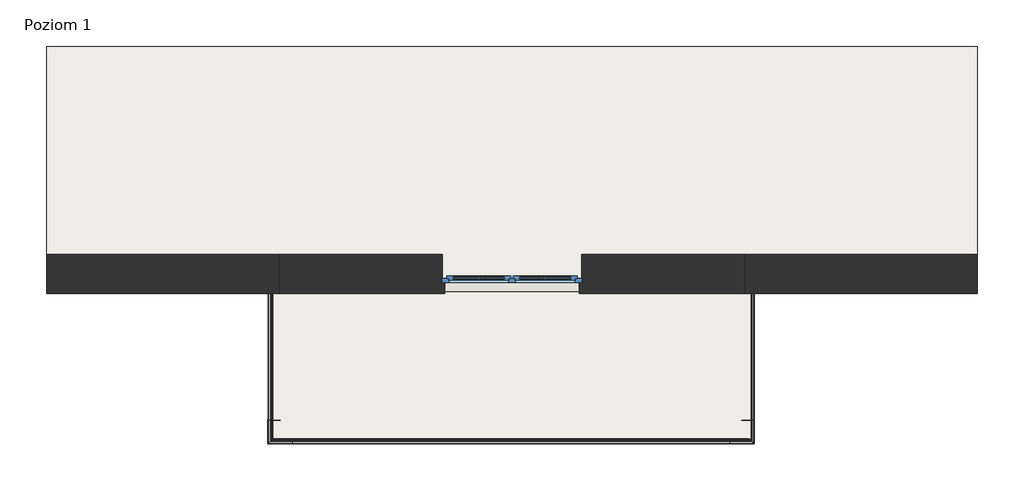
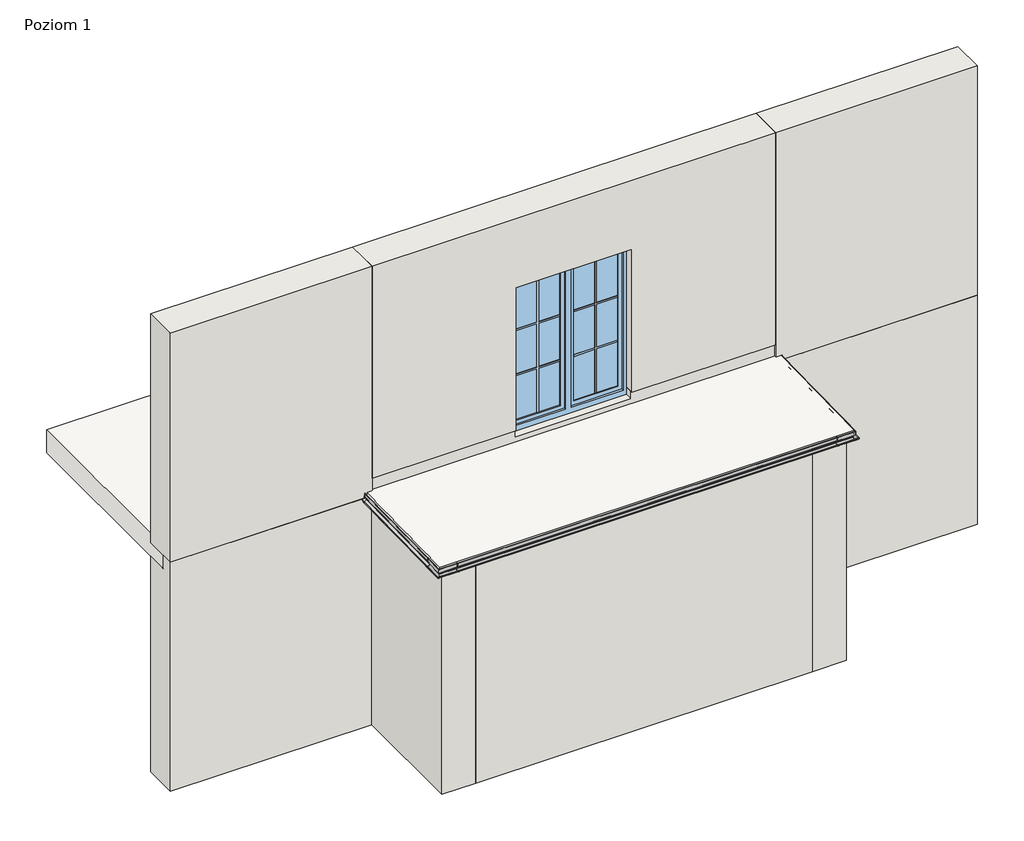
# One storey, part 1 of 4: 12 proxies, 10 walls, 2 slabs, 1 window.
"""IFC4 building model written with IfcOpenShell, lengths in millimetres."""

from ifc_helpers import new_model, si_unit, frame, origin, place, context, project, spatial, polyline, outline, extrude, faceted_brep, transform, mapped, element, save
from components import generic_models_68332640, generic_models_4a95ab7a, rynna_alu_r50_rynna_alu_r50_76c79ff7, rynna_alu_r50_rynna_alu_r50_7d1cd2c4, rynna_alu_r50_rynna_alu_r50_d8eb1f83, w35_plus_573f0110, w35_plus_b0e108dd, w35_plus_8190e263, window_150x200_12b14935

model = new_model("IFC4")

# Units and contexts
model_context = context("Model", 3, world=origin())
ifc_project = project(units=[si_unit("LENGTHUNIT", "METRE", prefix="MILLI")], contexts=[model_context])

# Site, building, storey
site = spatial("IfcSite", under=ifc_project)
building = spatial("IfcBuilding", under=site)
storey = spatial("IfcBuildingStorey", under=building, Name="Poziom 1", Elevation=0.0)

# Proxies
placement = place(None, origin())
generic_models_shape = generic_models_68332640(model_context)
element("IfcBuildingElementProxy", 1, Name="Odbojniki - OPW35 PLUS : Odbojniki - OPW35 PLUS", ObjectType="Odbojniki - OPW35 PLUS : Odbojniki - OPW35 PLUS", at=placement, inside=storey, context=model_context, shape_type="MappedRepresentation", body=[
    mapped(generic_models_shape, transform((-100610.4028716, 45257.8560503, -99.2971298), x_axis=(0.0, -0.9998161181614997, -0.019176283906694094), y_axis=(1.0000000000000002, 0.0, 0.0), z_axis=(0.0, -0.01917628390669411, 0.9998161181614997))),
])
element("IfcBuildingElementProxy", 2, Name="Odbojniki - OPW35 PLUS : Odbojniki - OPW35 PLUS", ObjectType="Odbojniki - OPW35 PLUS : Odbojniki - OPW35 PLUS", at=placement, inside=storey, context=model_context, shape_type="MappedRepresentation", body=[
    mapped(generic_models_shape, transform((-100813.2028716, 43700.7861698, -129.1614354), x_axis=(-1.0, 0.0, 0.0), y_axis=(0.0, -0.9998161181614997, -0.01917628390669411), z_axis=(0.0, -0.01917628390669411, 0.9998161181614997))),
])
element("IfcBuildingElementProxy", 3, Name="Odbojniki - OPW35 PLUS : Odbojniki - OPW35 PLUS", ObjectType="Odbojniki - OPW35 PLUS : Odbojniki - OPW35 PLUS", at=placement, inside=storey, context=model_context, shape_type="MappedRepresentation", body=[
    mapped(generic_models_shape, transform((-105717.2365026, 43904.4187701, -125.2558007), x_axis=(0.0, 0.9998161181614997, 0.019176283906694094), y_axis=(-1.0000000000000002, 0.0, 0.0), z_axis=(0.0, -0.01917628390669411, 0.9998161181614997))),
])
generic_models_2_shape = generic_models_4a95ab7a(model_context)
element("IfcBuildingElementProxy", 4, Name="Odbojniki - OPW35 PLUS : Odbojniki - OPW35 PLUS", ObjectType="Odbojniki - OPW35 PLUS : Odbojniki - OPW35 PLUS", at=placement, inside=storey, context=model_context, shape_type="MappedRepresentation", body=[
    mapped(generic_models_2_shape, transform((-105717.2365026, 45258.5697206, -99.2834418), x_axis=(0.0, -0.9998161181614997, -0.019176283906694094), y_axis=(1.0000000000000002, 0.0, 0.0), z_axis=(0.0, -0.01917628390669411, 0.9998161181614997))),
])
element("IfcBuildingElementProxy", 5, Name="Odbojniki - OPW35 PLUS : Odbojniki - OPW35 PLUS", ObjectType="Odbojniki - OPW35 PLUS : Odbojniki - OPW35 PLUS", at=placement, inside=storey, context=model_context, shape_type="MappedRepresentation", body=[
    mapped(generic_models_2_shape, transform((-105514.4365026, 43700.7861698, -129.1614354), x_axis=(1.0, 0.0, 0.0), y_axis=(0.0, 0.9998161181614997, 0.01917628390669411), z_axis=(0.0, -0.01917628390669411, 0.9998161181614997))),
])
element("IfcBuildingElementProxy", 6, Name="Odbojniki - OPW35 PLUS : Odbojniki - OPW35 PLUS", ObjectType="Odbojniki - OPW35 PLUS : Odbojniki - OPW35 PLUS", at=placement, inside=storey, context=model_context, shape_type="MappedRepresentation", body=[
    mapped(generic_models_2_shape, transform((-100610.4028716, 43903.7050998, -125.2694888), x_axis=(0.0, 0.9998161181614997, 0.019176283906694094), y_axis=(-1.0000000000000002, 0.0, 0.0), z_axis=(0.0, -0.01917628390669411, 0.9998161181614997))),
])
rynna_alu_r50_rynna_alu_r50_shape = rynna_alu_r50_rynna_alu_r50_76c79ff7(model_context)
element("IfcBuildingElementProxy", 7, Name="Rynna ALU R50 : Rynna ALU R50", ObjectType="Rynna ALU R50 : Rynna ALU R50", at=placement, inside=storey, context=model_context, shape_type="MappedRepresentation", body=[
    mapped(rynna_alu_r50_rynna_alu_r50_shape, transform((-103163.8196871, 43695.1925535, -131.7167123), x_axis=(1.0, 0.0, 0.0), y_axis=(0.0, 0.9998161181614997, 0.01917628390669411), z_axis=(0.0, -0.01917628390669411, 0.9998161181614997))),
])
rynna_alu_r50_rynna_alu_r50_2_shape = rynna_alu_r50_rynna_alu_r50_7d1cd2c4(model_context)
element("IfcBuildingElementProxy", 8, Name="Rynna ALU R50 : Rynna ALU R50", ObjectType="Rynna ALU R50 : Rynna ALU R50", at=placement, inside=storey, context=model_context, shape_type="MappedRepresentation", body=[
    mapped(rynna_alu_r50_rynna_alu_r50_2_shape, transform((-105722.878091, 44581.5411801, -114.7167134), x_axis=(0.0, 0.9998161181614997, 0.019176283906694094), y_axis=(-1.0000000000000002, 0.0, 0.0), z_axis=(0.0, -0.01917628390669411, 0.9998161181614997))),
])
rynna_alu_r50_rynna_alu_r50_3_shape = rynna_alu_r50_rynna_alu_r50_d8eb1f83(model_context)
element("IfcBuildingElementProxy", 9, Name="Rynna ALU R50 : Rynna ALU R50", ObjectType="Rynna ALU R50 : Rynna ALU R50", at=placement, inside=storey, context=model_context, shape_type="MappedRepresentation", body=[
    mapped(rynna_alu_r50_rynna_alu_r50_3_shape, transform((-100604.7612832, 44580.8275098, -114.7304015), x_axis=(0.0, 0.9998161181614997, 0.019176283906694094), y_axis=(-1.0000000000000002, 0.0, 0.0), z_axis=(0.0, -0.01917628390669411, 0.9998161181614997))),
])
w35_plus_shape = w35_plus_573f0110(model_context)
element("IfcBuildingElementProxy", 10, Name="W35 PLUS Profil okapowy prosty z rynną : W35 PLUS", ObjectType="W35 PLUS Profil okapowy prosty z rynną : W35 PLUS", at=placement, inside=storey, context=model_context, shape_type="MappedRepresentation", body=[
    mapped(w35_plus_shape, transform((-105717.2365026, 43700.2483344, -92.9716012), x_axis=(1.0, 0.0, 0.0), y_axis=(0.0, 0.9998161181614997, 0.01917628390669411), z_axis=(0.0, -0.01917628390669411, 0.9998161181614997))),
])
w35_plus_2_shape = w35_plus_b0e108dd(model_context)
element("IfcBuildingElementProxy", 11, Name="W35 PLUS Profil okapowy prosty z rynną : W35 PLUS", ObjectType="W35 PLUS Profil okapowy prosty z rynną : W35 PLUS", at=placement, inside=storey, context=model_context, shape_type="MappedRepresentation", body=[
    mapped(w35_plus_2_shape, transform((-100610.5591216, 43900.211558, -89.1363444), x_axis=(0.0, 0.9998161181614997, 0.019176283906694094), y_axis=(-1.0000000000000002, 0.0, 0.0), z_axis=(0.0, -0.01917628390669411, 0.9998161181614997))),
])
w35_plus_3_shape = w35_plus_8190e263(model_context)
element("IfcBuildingElementProxy", 12, Name="W35 PLUS Profil okapowy prosty z rynną : W35 PLUS", ObjectType="W35 PLUS Profil okapowy prosty z rynną : W35 PLUS", at=placement, inside=storey, context=model_context, shape_type="MappedRepresentation", body=[
    mapped(w35_plus_3_shape, transform((-105717.0802526, 43900.9252283, -89.1226564), x_axis=(0.0, 0.9998161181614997, 0.019176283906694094), y_axis=(-1.0000000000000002, 0.0, 0.0), z_axis=(0.0, -0.01917628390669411, 0.9998161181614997))),
])

# Slabs
element("IfcSlab", 13, ObjectType="Taras - wykończenie - posadzka z płytek grubowarstwowych - podkładka P1 - hydroizolacja", at=placement, inside=storey, context=model_context, shape_type="SweptSolid", body=[
    extrude(outline(polyline([(43700.2483344, -145.9716012), (43700.2483344, -92.9716012), (45285.2483344, -62.5716012), (45285.2483344, -115.5716012), (43700.2483344, -145.9716012)])), frame((-105717.2365026, 0.0, 0.0), z_axis=(1.0, 0.0, 0.0), x_axis=(0.0, 1.0, 0.0)), (0.0, 0.0, 1.0), 5126.0),
])
element("IfcSlab", 14, ObjectType="Strop", at=placement, inside=storey, context=model_context, shape_type="Brep", body=[
    faceted_brep([(-98154.2365026, 45418.2483344, -300.0), (-100649.2365026, 45418.2483344, -300.0), (-101069.2365026, 45418.2483344, -300.0), (-105239.2365026, 45418.2483344, -300.0), (-108154.2365026, 45418.2483344, -300.0), (-108154.2365026, 45683.2483344, -300.0), (-108154.2365026, 47918.2483344, -300.0), (-98154.2365026, 47918.2483344, -300.0), (-98154.2365026, 45683.2483344, -300.0), (-98154.2365026, 45418.2483344, 0.0), (-98154.2365026, 47918.2483344, 0.0), (-108154.2365026, 47918.2483344, 0.0), (-108154.2365026, 45418.2483344, 0.0), (-105654.2365026, 45418.2483344, 0.0), (-103904.2365026, 45418.2483344, 0.0), (-102404.2365026, 45418.2483344, 0.0), (-100654.2365026, 45418.2483344, 0.0), (-98154.2365026, 45418.2483344, -125.0), (-108154.2365026, 45418.2483344, -125.0)], [[[0, 1, 2, 3, 4, 5, 6, 7, 8]], [[9, 10, 11, 12, 13, 14, 15, 16]], [[4, 3, 2, 1, 0, 17, 9, 16, 15, 14, 13, 12, 18]], [[6, 5, 4, 18, 12, 11]], [[7, 6, 11, 10]], [[0, 8, 7, 10, 9, 17]]]),
])

# Walls
element("IfcWall", 15, ObjectType="Porotherm P+W 25 + o15 + t", at=placement, inside=storey, context=model_context, shape_type="Brep", body=[
    faceted_brep([(-108154.2365026, 45263.2483344, -3125.0), (-105659.2365026, 45263.2483344, -3125.0), (-105239.2365026, 45263.2483344, -3125.0), (-105239.2365026, 45263.2483344, -147.509132), (-105449.2365026, 45263.2483344, -147.509132), (-105449.2365026, 45263.2483344, -125.0), (-105654.2365026, 45263.2483344, -125.0), (-108154.2365026, 45263.2483344, -125.0), (-105239.2365026, 45683.2483344, -3125.0), (-108154.2365026, 45683.2483344, -3125.0), (-108154.2365026, 45683.2483344, -300.0), (-105239.2365026, 45683.2483344, -300.0), (-105239.2365026, 45403.2483344, -3125.0), (-105449.2365026, 45403.2483344, -125.0), (-105449.2365026, 45418.2483344, -125.0), (-108154.2365026, 45418.2483344, -125.0), (-108154.2365026, 45418.2483344, -300.0), (-105239.2365026, 45418.2483344, -300.0), (-105449.2365026, 45418.2483344, -147.509132), (-105239.2365026, 45418.2483344, -147.509132), (-105449.2365026, 45403.2483344, -147.509132), (-105239.2365026, 45403.2483344, -147.509132)], [[[0, 1, 2, 3, 4, 5, 6, 7]], [[8, 9, 10, 11]], [[2, 1, 0, 9, 8, 12]], [[7, 6, 5, 13, 14, 15]], [[0, 7, 15, 16, 10, 9]], [[16, 17, 11, 10]], [[17, 16, 15, 14, 18, 19]], [[5, 4, 20, 18, 14, 13]], [[4, 3, 21, 19, 18, 20]], [[3, 2, 12, 8, 11, 17, 19, 21]]]),
])
element("IfcWall", 16, ObjectType="Porotherm P+W 25 + o15 + t", at=placement, inside=storey, context=model_context, shape_type="Brep", body=[
    faceted_brep([(-105659.2365026, 45263.2483344, -3125.0), (-105659.2365026, 43758.2483344, -3125.0), (-105659.2365026, 43758.2483344, -147.509132), (-105659.2365026, 45263.2483344, -147.509132), (-105239.2365026, 45263.2483344, -3125.0), (-105239.2365026, 45263.2483344, -147.509132), (-105239.2365026, 44178.2483344, -147.509132), (-105239.2365026, 43758.2483344, -147.509132), (-105239.2365026, 43758.2483344, -3125.0), (-105239.2365026, 44178.2483344, -3125.0), (-105449.2365026, 45263.2483344, -147.509132)], [[[0, 1, 2, 3]], [[4, 5, 6, 7, 8, 9]], [[1, 0, 4, 9, 8]], [[3, 2, 7, 6, 5, 10]], [[2, 1, 8, 7]], [[0, 3, 10, 5, 4]]]),
])
element("IfcWall", 17, ObjectType="Porotherm P+W 25 + o15 + t", at=placement, inside=storey, context=model_context, shape_type="SweptSolid", body=[
    extrude(outline(polyline([(-101069.2365026, 43758.2483344), (-105239.2365026, 43758.2483344), (-105239.2365026, 44178.2483344), (-101069.2365026, 44178.2483344), (-101069.2365026, 43758.2483344)])), frame((0.0, 0.0, -3125.0), z_axis=(0.0, 0.0, 1.0), x_axis=(1.0, 0.0, 0.0)), (0.0, 0.0, 1.0), 2977.490868),
])
element("IfcWall", 18, ObjectType="Porotherm P+W 25 + o15 + t", at=placement, inside=storey, context=model_context, shape_type="Brep", body=[
    faceted_brep([(-100649.2365026, 43758.2483344, -3125.0), (-100649.2365026, 45263.2483344, -3125.0), (-100649.2365026, 45683.2483344, -3125.0), (-100649.2365026, 45683.2483344, -300.0), (-100649.2365026, 45683.2483344, -147.509132), (-100649.2365026, 45418.2483344, -147.509132), (-100649.2365026, 45263.2483344, -147.509132), (-100649.2365026, 43758.2483344, -147.509132), (-101069.2365026, 43758.2483344, -3125.0), (-101069.2365026, 43758.2483344, -147.509132), (-101069.2365026, 44178.2483344, -147.509132), (-101069.2365026, 45403.2483344, -147.509132), (-101069.2365026, 45418.2483344, -147.509132), (-101069.2365026, 45683.2483344, -147.509132), (-101069.2365026, 45683.2483344, -300.0), (-101069.2365026, 45683.2483344, -3125.0), (-101069.2365026, 45403.2483344, -3125.0), (-101069.2365026, 44178.2483344, -3125.0)], [[[0, 1, 2, 3, 4, 5, 6, 7]], [[8, 9, 10, 11, 12, 13, 14, 15, 16, 17]], [[2, 1, 0, 8, 17, 16, 15]], [[7, 6, 5, 4, 13, 12, 11, 10, 9]], [[0, 7, 9, 8]], [[4, 3, 2, 15, 14, 13]]]),
])
element("IfcWall", 19, ObjectType="Porotherm P+W 25 + o15 + t", at=placement, inside=storey, context=model_context, shape_type="Brep", body=[
    faceted_brep([(-100649.2365026, 45263.2483344, -3125.0), (-98154.2365026, 45263.2483344, -3125.0), (-98154.2365026, 45263.2483344, -125.0), (-100654.2365026, 45263.2483344, -125.0), (-100859.2365026, 45263.2483344, -125.0), (-100859.2365026, 45263.2483344, -147.509132), (-100649.2365026, 45263.2483344, -147.509132), (-98154.2365026, 45683.2483344, -3125.0), (-100649.2365026, 45683.2483344, -3125.0), (-100649.2365026, 45683.2483344, -300.0), (-98154.2365026, 45683.2483344, -300.0), (-98154.2365026, 45418.2483344, -300.0), (-98154.2365026, 45418.2483344, -125.0), (-100859.2365026, 45418.2483344, -125.0), (-100859.2365026, 45403.2483344, -125.0), (-100649.2365026, 45418.2483344, -300.0), (-100649.2365026, 45418.2483344, -147.509132), (-100859.2365026, 45418.2483344, -147.509132), (-100859.2365026, 45403.2483344, -147.509132)], [[[0, 1, 2, 3, 4, 5, 6]], [[7, 8, 9, 10]], [[1, 0, 8, 7]], [[2, 1, 7, 10, 11, 12]], [[4, 3, 2, 12, 13, 14]], [[15, 11, 10, 9]], [[11, 15, 16, 17, 13, 12]], [[5, 4, 14, 13, 17, 18]], [[6, 5, 18, 17, 16]], [[0, 6, 16, 15, 9, 8]]]),
])
element("IfcWall", 20, ObjectType="Porotherm P+W 25(wieniec 45) + t", at=placement, inside=storey, context=model_context, shape_type="Brep", body=[
    faceted_brep([(-105239.2365026, 45403.2483344, -3125.0), (-101069.2365026, 45403.2483344, -3125.0), (-101069.2365026, 45403.2483344, -147.509132), (-100859.2365026, 45403.2483344, -147.509132), (-100859.2365026, 45403.2483344, -125.0), (-105449.2365026, 45403.2483344, -125.0), (-105449.2365026, 45403.2483344, -147.509132), (-105239.2365026, 45403.2483344, -147.509132), (-101069.2365026, 45683.2483344, -3125.0), (-105239.2365026, 45683.2483344, -3125.0), (-105239.2365026, 45683.2483344, -300.0), (-101069.2365026, 45683.2483344, -300.0), (-100859.2365026, 45418.2483344, -125.0), (-105449.2365026, 45418.2483344, -125.0), (-105239.2365026, 45418.2483344, -300.0), (-101069.2365026, 45418.2483344, -300.0), (-105239.2365026, 45418.2483344, -147.509132), (-105449.2365026, 45418.2483344, -147.509132), (-100859.2365026, 45418.2483344, -147.509132), (-101069.2365026, 45418.2483344, -147.509132)], [[[0, 1, 2, 3, 4, 5, 6, 7]], [[8, 9, 10, 11]], [[1, 0, 9, 8]], [[5, 4, 12, 13]], [[14, 15, 11, 10]], [[15, 14, 16, 17, 13, 12, 18, 19]], [[6, 5, 13, 17]], [[7, 6, 17, 16]], [[0, 7, 16, 14, 10, 9]], [[4, 3, 18, 12]], [[3, 2, 19, 18]], [[2, 1, 8, 11, 15, 19]]]),
])
element("IfcWall", 21, ObjectType="Porotherm P+W 25 + o15 + t", at=placement, inside=storey, context=model_context, shape_type="Brep", body=[
    faceted_brep([(-108154.2365026, 45263.2483344, -125.0), (-105654.2365026, 45263.2483344, -125.0), (-105654.2365026, 45263.2483344, 100.0), (-105654.2365026, 45263.2483344, 2875.0), (-108154.2365026, 45263.2483344, 2875.0), (-108154.2365026, 45683.2483344, -125.0), (-108154.2365026, 45683.2483344, 2875.0), (-105654.2365026, 45683.2483344, 2875.0), (-105654.2365026, 45683.2483344, 100.0), (-105654.2365026, 45683.2483344, 0.0), (-105654.2365026, 45683.2483344, -125.0), (-108154.2365026, 45418.2483344, -125.0), (-105654.2365026, 45418.2483344, -125.0), (-105654.2365026, 45285.2483344, -125.0)], [[[0, 1, 2, 3, 4]], [[5, 6, 7, 8, 9, 10]], [[1, 0, 11, 5, 10, 12, 13]], [[4, 3, 7, 6]], [[0, 4, 6, 5, 11]], [[1, 13, 12, 10, 9, 8, 7, 3, 2]]]),
])
element("IfcWall", 22, ObjectType="Porotherm P+W 25 + o15 + t", at=placement, inside=storey, context=model_context, shape_type="Brep", body=[
    faceted_brep([(-100654.2365026, 45263.2483344, 2875.0), (-100654.2365026, 45263.2483344, 100.0), (-100654.2365026, 45263.2483344, -125.0), (-98154.2365026, 45263.2483344, -125.0), (-98154.2365026, 45263.2483344, 2875.0), (-100654.2365026, 45683.2483344, -125.0), (-100654.2365026, 45683.2483344, 0.0), (-100654.2365026, 45683.2483344, 100.0), (-100654.2365026, 45683.2483344, 2875.0), (-98154.2365026, 45683.2483344, 2875.0), (-98154.2365026, 45683.2483344, -125.0), (-100654.2365026, 45285.2483344, -125.0), (-100654.2365026, 45418.2483344, -125.0), (-98154.2365026, 45418.2483344, -125.0)], [[[0, 1, 2, 3, 4]], [[5, 6, 7, 8, 9, 10]], [[3, 2, 11, 12, 5, 10, 13]], [[4, 3, 13, 10, 9]], [[0, 4, 9, 8]], [[0, 8, 7, 6, 5, 12, 11, 2, 1]]]),
])
element("IfcWall", 23, ObjectType="Porotherm P+W 25 + o12 + pł ceramiczne", at=placement, inside=storey, context=model_context, shape_type="Brep", body=[
    faceted_brep([(-105654.2365026, 45285.2483344, -125.0), (-100654.2365026, 45285.2483344, -125.0), (-100654.2365026, 45285.2483344, 100.0), (-102434.2365026, 45285.2483344, 100.0), (-102434.2365026, 45285.2483344, 0.0), (-103874.2365026, 45285.2483344, 0.0), (-103874.2365026, 45285.2483344, 100.0), (-105654.2365026, 45285.2483344, 100.0), (-102404.2365026, 45683.2483344, 100.0), (-100654.2365026, 45683.2483344, 100.0), (-100654.2365026, 45683.2483344, 0.0), (-102404.2365026, 45683.2483344, 0.0), (-105654.2365026, 45683.2483344, 100.0), (-103904.2365026, 45683.2483344, 100.0), (-103904.2365026, 45683.2483344, 0.0), (-105654.2365026, 45683.2483344, 0.0), (-105654.2365026, 45418.2483344, -125.0), (-100654.2365026, 45418.2483344, -125.0), (-100654.2365026, 45418.2483344, 0.0), (-102404.2365026, 45383.2483344, 100.0), (-102434.2365026, 45383.2483344, 100.0), (-103874.2365026, 45383.2483344, 100.0), (-103904.2365026, 45383.2483344, 100.0), (-105654.2365026, 45418.2483344, 0.0), (-102404.2365026, 45418.2483344, 0.0), (-103904.2365026, 45418.2483344, 0.0), (-103904.2365026, 45383.2483344, 0.0), (-103874.2365026, 45383.2483344, 0.0), (-102434.2365026, 45383.2483344, 0.0), (-102404.2365026, 45383.2483344, 0.0)], [[[0, 1, 2, 3, 4, 5, 6, 7]], [[8, 9, 10, 11]], [[12, 13, 14, 15]], [[1, 0, 16, 17]], [[2, 1, 17, 18, 10, 9]], [[2, 9, 8, 19, 20, 3]], [[12, 7, 6, 21, 22, 13]], [[0, 7, 12, 15, 23, 16]], [[18, 24, 11, 10]], [[25, 23, 15, 14]], [[24, 18, 17, 16, 23, 25]], [[26, 27, 5, 4, 28, 29, 24, 25]], [[27, 26, 22, 21]], [[29, 28, 20, 19]], [[29, 19, 8, 11, 24]], [[22, 26, 25, 14, 13]], [[28, 4, 3, 20]], [[5, 27, 21, 6]]]),
])
element("IfcWall", 24, ObjectType="Porotherm P+W 25 + o15 + t", at=placement, inside=storey, context=model_context, shape_type="Brep", body=[
    faceted_brep([(-100654.2365026, 45263.2483344, 100.0), (-100654.2365026, 45263.2483344, 2875.0), (-105654.2365026, 45263.2483344, 2875.0), (-105654.2365026, 45263.2483344, 100.0), (-103874.2365026, 45263.2483344, 100.0), (-103874.2365026, 45263.2483344, 1970.0), (-102434.2365026, 45263.2483344, 1970.0), (-102434.2365026, 45263.2483344, 100.0), (-100654.2365026, 45683.2483344, 2875.0), (-100654.2365026, 45683.2483344, 100.0), (-102404.2365026, 45683.2483344, 100.0), (-102404.2365026, 45683.2483344, 2000.0), (-103904.2365026, 45683.2483344, 2000.0), (-103904.2365026, 45683.2483344, 100.0), (-105654.2365026, 45683.2483344, 100.0), (-105654.2365026, 45683.2483344, 2875.0), (-105654.2365026, 45285.2483344, 100.0), (-103904.2365026, 45383.2483344, 100.0), (-103874.2365026, 45383.2483344, 100.0), (-103874.2365026, 45285.2483344, 100.0), (-100654.2365026, 45285.2483344, 100.0), (-102434.2365026, 45285.2483344, 100.0), (-102434.2365026, 45383.2483344, 100.0), (-102404.2365026, 45383.2483344, 100.0), (-102404.2365026, 45383.2483344, 2000.0), (-102434.2365026, 45383.2483344, 1970.0), (-103904.2365026, 45383.2483344, 2000.0), (-103874.2365026, 45383.2483344, 1970.0)], [[[0, 1, 2, 3, 4, 5, 6, 7]], [[8, 9, 10, 11, 12, 13, 14, 15]], [[3, 16, 14, 13, 17, 18, 19, 4]], [[9, 20, 0, 7, 21, 22, 23, 10]], [[1, 0, 20, 9, 8]], [[2, 1, 8, 15]], [[3, 2, 15, 14, 16]], [[24, 11, 10, 23]], [[6, 25, 22, 21, 7]], [[26, 12, 11, 24]], [[26, 24, 23, 22, 25, 27, 18, 17]], [[12, 26, 17, 13]], [[27, 25, 6, 5]], [[27, 5, 4, 19, 18]]]),
])

# Window
window_150x200_shape = window_150x200_12b14935(model_context)
element("IfcWindow", 25, ObjectType="OKNO_2X_W_SZ : 150x200", at=placement, inside=storey, context=model_context, shape_type="MappedRepresentation", body=[
    mapped(window_150x200_shape, transform((-103154.2365026, 45473.2483344, -850.0), x_axis=(-1.0, 0.0, 0.0), y_axis=(0.0, -1.0, 0.0), z_axis=(0.0, 0.0, 1.0))),
])

save(model, "model.ifc")
